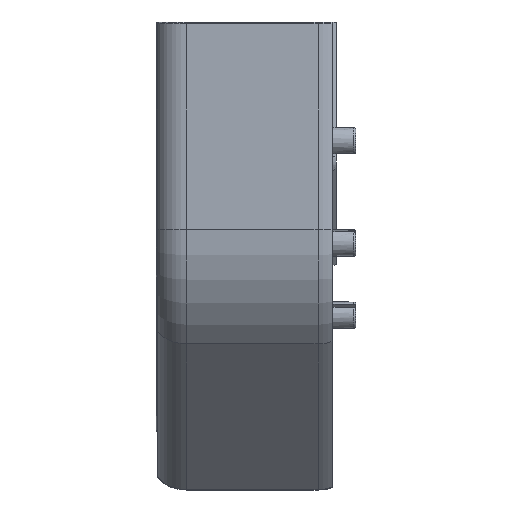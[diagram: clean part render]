
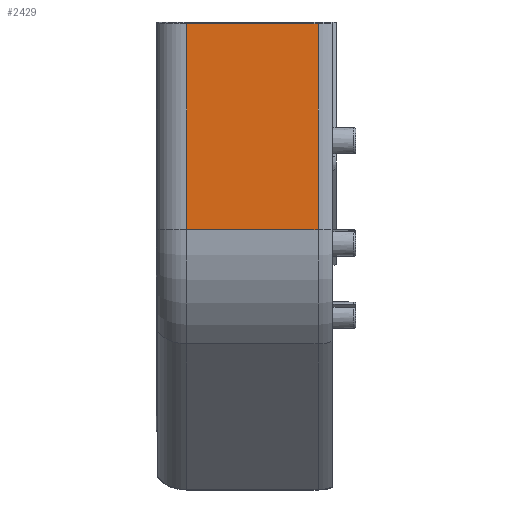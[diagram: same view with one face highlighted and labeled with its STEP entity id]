
A CAD part, left-side view. The second image highlights one B-rep face of the part: STEP entity #2429.
In plain terms, the highlighted planar face has unit normal (-1, 0, 0).
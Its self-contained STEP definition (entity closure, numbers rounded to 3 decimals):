
#12 = EDGE_CURVE ( 'NONE', #1543, #4466, #4441, .T. ) ;
#94 = VECTOR ( 'NONE', #2613, 1000. ) ;
#280 = EDGE_CURVE ( 'NONE', #5453, #1543, #6540, .T. ) ;
#312 = AXIS2_PLACEMENT_3D ( 'NONE', #313, #1389, #1426 ) ;
#313 = CARTESIAN_POINT ( 'NONE',  ( -17.5, -1.25, 0. ) ) ;
#402 = CARTESIAN_POINT ( 'NONE',  ( -17.5, 10.94, 0. ) ) ;
#642 = ORIENTED_EDGE ( 'NONE', *, *, #12, .T. ) ;
#891 = VECTOR ( 'NONE', #2431, 1000. ) ;
#1275 = CARTESIAN_POINT ( 'NONE',  ( -17.5, -2.94, -12.843 ) ) ;
#1389 = DIRECTION ( 'NONE',  ( 1., 0., 0. ) ) ;
#1409 = VECTOR ( 'NONE', #1780, 1000. ) ;
#1426 = DIRECTION ( 'NONE',  ( 0., 0., -1. ) ) ;
#1455 = FACE_OUTER_BOUND ( 'NONE', #3029, .T. ) ;
#1543 = VERTEX_POINT ( 'NONE', #3963 ) ;
#1719 = ORIENTED_EDGE ( 'NONE', *, *, #2820, .F. ) ;
#1780 = DIRECTION ( 'NONE',  ( 0., 0., -1. ) ) ;
#1867 = VERTEX_POINT ( 'NONE', #2545 ) ;
#1981 = VECTOR ( 'NONE', #3924, 1000. ) ;
#2429 = ADVANCED_FACE ( 'NONE', ( #1455 ), #6052, .F. ) ;
#2431 = DIRECTION ( 'NONE',  ( 0., 0., -1. ) ) ;
#2545 = CARTESIAN_POINT ( 'NONE',  ( -17.5, -1.25, -12.843 ) ) ;
#2613 = DIRECTION ( 'NONE',  ( 0., 1., 0. ) ) ;
#2820 = EDGE_CURVE ( 'NONE', #1867, #4466, #5939, .T. ) ;
#3029 = EDGE_LOOP ( 'NONE', ( #3565, #3793, #642, #1719 ) ) ;
#3565 = ORIENTED_EDGE ( 'NONE', *, *, #6193, .F. ) ;
#3793 = ORIENTED_EDGE ( 'NONE', *, *, #280, .T. ) ;
#3850 = CARTESIAN_POINT ( 'NONE',  ( -17.5, 10.94, 6.25 ) ) ;
#3924 = DIRECTION ( 'NONE',  ( 0., 1., 0. ) ) ;
#3963 = CARTESIAN_POINT ( 'NONE',  ( -17.5, 10.94, 6.25 ) ) ;
#4441 = LINE ( 'NONE', #402, #891 ) ;
#4466 = VERTEX_POINT ( 'NONE', #5160 ) ;
#4845 = CARTESIAN_POINT ( 'NONE',  ( -17.5, -1.25, 0. ) ) ;
#5160 = CARTESIAN_POINT ( 'NONE',  ( -17.5, 10.94, -12.843 ) ) ;
#5453 = VERTEX_POINT ( 'NONE', #5758 ) ;
#5457 = LINE ( 'NONE', #4845, #1409 ) ;
#5758 = CARTESIAN_POINT ( 'NONE',  ( -17.5, -1.25, 6.25 ) ) ;
#5939 = LINE ( 'NONE', #1275, #94 ) ;
#6052 = PLANE ( 'NONE',  #312 ) ;
#6193 = EDGE_CURVE ( 'NONE', #5453, #1867, #5457, .T. ) ;
#6540 = LINE ( 'NONE', #3850, #1981 ) ;
